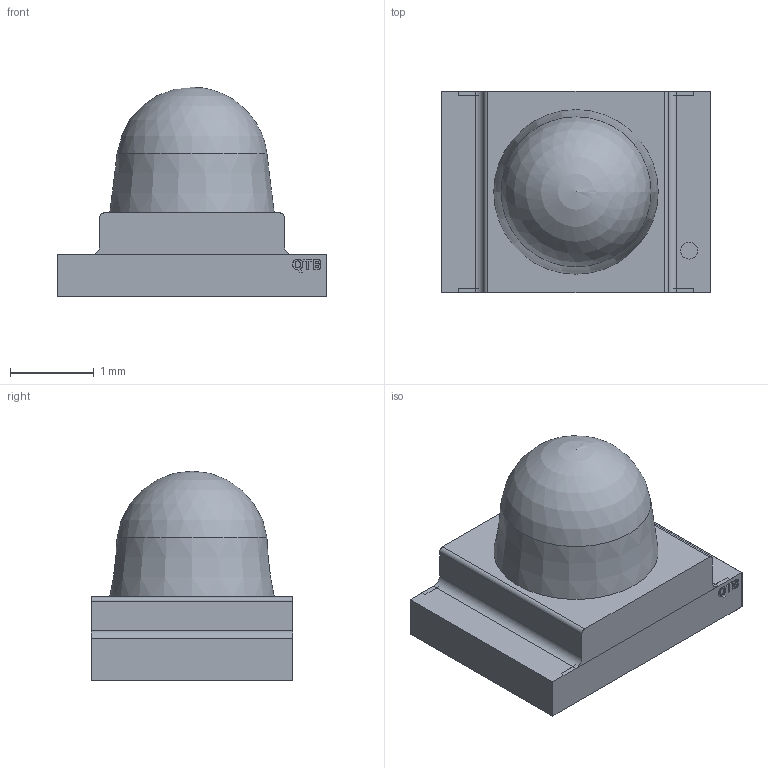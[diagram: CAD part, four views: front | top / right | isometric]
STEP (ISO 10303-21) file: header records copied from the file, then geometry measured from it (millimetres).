
FILE_DESCRIPTION(/* description */ (''),/* implementation_level */ '2;1');
FILE_NAME(/* name */ '5fab0e981c17e90e8914f07a',/* time_stamp */ '2020-11-10T22:05:13+00:00',/* author */ (''),/* organization */ (''),/* preprocessor_version */ 'ST-DEVELOPER v16.7',/* originating_system */ $,/* authorisation */ $);
FILE_SCHEMA (('AUTOMOTIVE_DESIGN {1 0 10303 214 3 1 1}'));
Length unit declared in the file: metre
Products named in the file (6): QBLP653(R); Part 4; Part 3; Part 2; Part 1; Part 5
Assembly tree (5 placements, depth 2):
  QBLP653(R)
    Part 4
    Part 3
    Part 2
    Part 1
    Part 5
Bounding box: 3.2 x 2.4 x 2.5 mm (x, y, z)
Volume: 9.7 mm3; surface area: 58.3 mm2
Topology: 5 solids, 5 shells, 156 faces, 416 edges, 277 vertices
Faces by surface type: plane 119, bspline 29, cylinder 6, cone 1, sphere 1
Full cylindrical faces by diameter (mm): 0.2 x2
Entity records: 5013 total; most frequent: CARTESIAN_POINT 1168, ORIENTED_EDGE 822, DIRECTION 633, EDGE_CURVE 411, LINE 339, VECTOR 339, VERTEX_POINT 276, EDGE_LOOP 169
